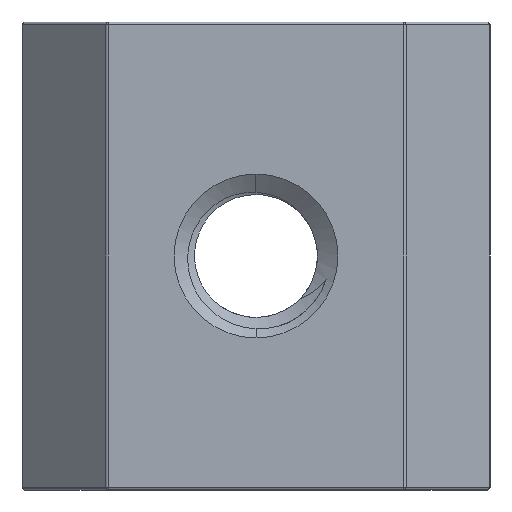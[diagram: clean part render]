
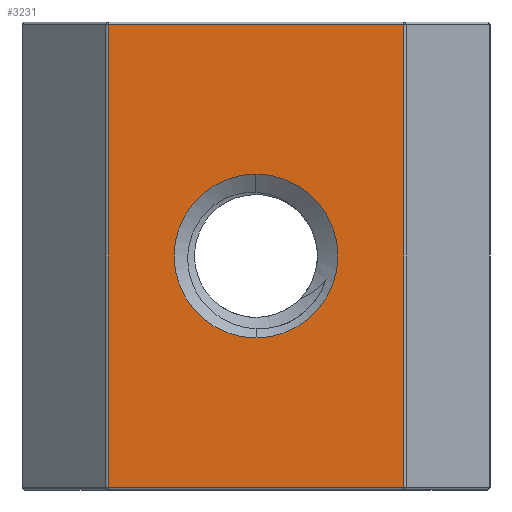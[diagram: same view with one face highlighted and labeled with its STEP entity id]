
A CAD part, front view. The second image highlights one B-rep face of the part: STEP entity #3231.
In plain terms, the highlighted planar face has unit normal (0, -1, 0).
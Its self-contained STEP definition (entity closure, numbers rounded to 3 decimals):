
#87 = CARTESIAN_POINT ( 'NONE',  ( 5.1, -3., -7.9 ) ) ;
#208 = DIRECTION ( 'NONE',  ( 0., 1., 0. ) ) ;
#209 = CARTESIAN_POINT ( 'NONE',  ( -5.059, -3., -7.9 ) ) ;
#228 = VERTEX_POINT ( 'NONE', #3678 ) ;
#242 = CARTESIAN_POINT ( 'NONE',  ( 0., -3., 0. ) ) ;
#247 = AXIS2_PLACEMENT_3D ( 'NONE', #1531, #2178, #2428 ) ;
#497 = CARTESIAN_POINT ( 'NONE',  ( -8., -3., 8. ) ) ;
#544 = EDGE_LOOP ( 'NONE', ( #806, #1855, #2176, #2778 ) ) ;
#565 = VERTEX_POINT ( 'NONE', #1342 ) ;
#575 = DIRECTION ( 'NONE',  ( 0., 1., 0. ) ) ;
#693 = CARTESIAN_POINT ( 'NONE',  ( -5.059, -3., 7.9 ) ) ;
#741 = VERTEX_POINT ( 'NONE', #693 ) ;
#806 = ORIENTED_EDGE ( 'NONE', *, *, #3563, .T. ) ;
#858 = AXIS2_PLACEMENT_3D ( 'NONE', #497, #208, #1436 ) ;
#914 = VECTOR ( 'NONE', #3821, 1000. ) ;
#928 = CARTESIAN_POINT ( 'NONE',  ( 5.059, -3., 7.9 ) ) ;
#1001 = EDGE_CURVE ( 'NONE', #2215, #741, #3406, .T. ) ;
#1022 = CARTESIAN_POINT ( 'NONE',  ( 5.059, -3., -7.9 ) ) ;
#1061 = CARTESIAN_POINT ( 'NONE',  ( -5.059, -3., 8. ) ) ;
#1090 = EDGE_CURVE ( 'NONE', #565, #228, #2551, .T. ) ;
#1237 = CIRCLE ( 'NONE', #2819, 2.8 ) ;
#1279 = EDGE_CURVE ( 'NONE', #1462, #2215, #1851, .T. ) ;
#1342 = CARTESIAN_POINT ( 'NONE',  ( 0., -3., 2.8 ) ) ;
#1436 = DIRECTION ( 'NONE',  ( 0., 0., 1. ) ) ;
#1462 = VERTEX_POINT ( 'NONE', #1022 ) ;
#1478 = DIRECTION ( 'NONE',  ( 0., 0., 1. ) ) ;
#1479 = EDGE_LOOP ( 'NONE', ( #2381, #1671 ) ) ;
#1481 = VECTOR ( 'NONE', #2386, 1000. ) ;
#1485 = CARTESIAN_POINT ( 'NONE',  ( -8., -3., 7.9 ) ) ;
#1511 = DIRECTION ( 'NONE',  ( -1., 0., 0. ) ) ;
#1531 = CARTESIAN_POINT ( 'NONE',  ( 0., -3., 0. ) ) ;
#1671 = ORIENTED_EDGE ( 'NONE', *, *, #2133, .T. ) ;
#1851 = LINE ( 'NONE', #3971, #1481 ) ;
#1855 = ORIENTED_EDGE ( 'NONE', *, *, #1279, .T. ) ;
#1878 = EDGE_CURVE ( 'NONE', #741, #3648, #2841, .T. ) ;
#2025 = FACE_BOUND ( 'NONE', #1479, .T. ) ;
#2133 = EDGE_CURVE ( 'NONE', #228, #565, #1237, .T. ) ;
#2176 = ORIENTED_EDGE ( 'NONE', *, *, #1001, .T. ) ;
#2178 = DIRECTION ( 'NONE',  ( 0., 1., 0. ) ) ;
#2215 = VERTEX_POINT ( 'NONE', #928 ) ;
#2260 = VECTOR ( 'NONE', #3118, 1000. ) ;
#2335 = PLANE ( 'NONE',  #858 ) ;
#2381 = ORIENTED_EDGE ( 'NONE', *, *, #1090, .T. ) ;
#2386 = DIRECTION ( 'NONE',  ( 0., 0., 1. ) ) ;
#2428 = DIRECTION ( 'NONE',  ( 0., 0., 1. ) ) ;
#2551 = CIRCLE ( 'NONE', #247, 2.8 ) ;
#2778 = ORIENTED_EDGE ( 'NONE', *, *, #1878, .T. ) ;
#2819 = AXIS2_PLACEMENT_3D ( 'NONE', #242, #575, #1478 ) ;
#2841 = LINE ( 'NONE', #1061, #914 ) ;
#3118 = DIRECTION ( 'NONE',  ( 1., 0., 0. ) ) ;
#3231 = ADVANCED_FACE ( 'NONE', ( #3602, #2025 ), #2335, .F. ) ;
#3406 = LINE ( 'NONE', #1485, #3679 ) ;
#3563 = EDGE_CURVE ( 'NONE', #3648, #1462, #3780, .T. ) ;
#3602 = FACE_OUTER_BOUND ( 'NONE', #544, .T. ) ;
#3648 = VERTEX_POINT ( 'NONE', #209 ) ;
#3678 = CARTESIAN_POINT ( 'NONE',  ( 0., -3., -2.8 ) ) ;
#3679 = VECTOR ( 'NONE', #1511, 1000. ) ;
#3780 = LINE ( 'NONE', #87, #2260 ) ;
#3821 = DIRECTION ( 'NONE',  ( 0., 0., -1. ) ) ;
#3971 = CARTESIAN_POINT ( 'NONE',  ( 5.059, -3., 8. ) ) ;
